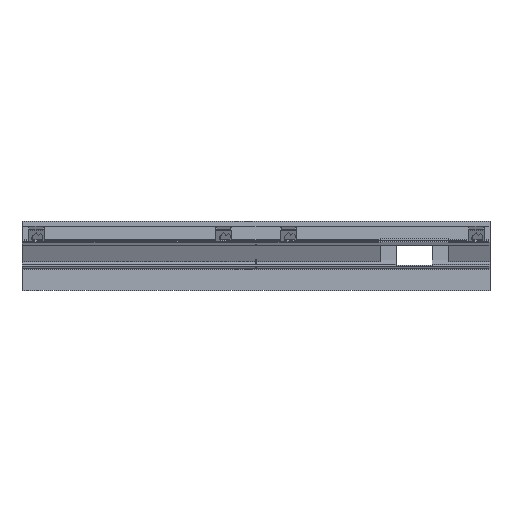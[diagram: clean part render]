
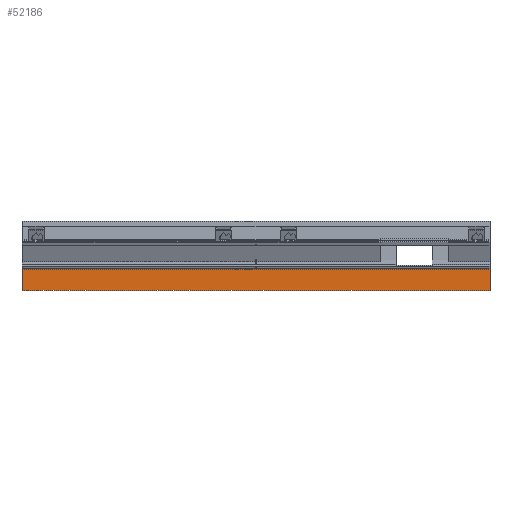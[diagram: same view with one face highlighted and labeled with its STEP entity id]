
A CAD part, front view. The second image highlights one B-rep face of the part: STEP entity #52186.
In plain terms, the highlighted planar face has unit normal (0, -1, 0).
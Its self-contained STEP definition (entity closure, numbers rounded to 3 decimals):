
#32 = PLANE('',#33);
#33 = AXIS2_PLACEMENT_3D('',#34,#35,#36);
#34 = CARTESIAN_POINT('',(-117.,101.,1.));
#35 = DIRECTION('',(1.,0.,-0.));
#36 = DIRECTION('',(0.,0.,1.));
#729 = VERTEX_POINT('',#730);
#730 = CARTESIAN_POINT('',(-117.,158.5,10.693));
#744 = PLANE('',#745);
#745 = AXIS2_PLACEMENT_3D('',#746,#747,#748);
#746 = CARTESIAN_POINT('',(-128.,147.295,-7.852));
#747 = DIRECTION('',(0.,-0.856,0.517));
#748 = DIRECTION('',(0.,0.517,0.856));
#756 = EDGE_CURVE('',#757,#729,#759,.T.);
#757 = VERTEX_POINT('',#758);
#758 = CARTESIAN_POINT('',(-117.,158.5,0.));
#759 = SURFACE_CURVE('',#760,(#764,#771),.PCURVE_S1.);
#760 = LINE('',#761,#762);
#761 = CARTESIAN_POINT('',(-117.,158.5,0.));
#762 = VECTOR('',#763,1.);
#763 = DIRECTION('',(0.,0.,1.));
#764 = PCURVE('',#32,#765);
#765 = DEFINITIONAL_REPRESENTATION('',(#766),#770);
#766 = LINE('',#767,#768);
#767 = CARTESIAN_POINT('',(-1.,-57.5));
#768 = VECTOR('',#769,1.);
#769 = DIRECTION('',(1.,0.));
#770 = ( GEOMETRIC_REPRESENTATION_CONTEXT(2) 
PARAMETRIC_REPRESENTATION_CONTEXT() REPRESENTATION_CONTEXT('2D SPACE',''
  ) );
#771 = PCURVE('',#772,#777);
#772 = PLANE('',#773);
#773 = AXIS2_PLACEMENT_3D('',#774,#775,#776);
#774 = CARTESIAN_POINT('',(168.,158.5,1.));
#775 = DIRECTION('',(0.,-1.,0.));
#776 = DIRECTION('',(-1.,0.,0.));
#777 = DEFINITIONAL_REPRESENTATION('',(#778),#782);
#778 = LINE('',#779,#780);
#779 = CARTESIAN_POINT('',(285.,1.));
#780 = VECTOR('',#781,1.);
#781 = DIRECTION('',(0.,-1.));
#782 = ( GEOMETRIC_REPRESENTATION_CONTEXT(2) 
PARAMETRIC_REPRESENTATION_CONTEXT() REPRESENTATION_CONTEXT('2D SPACE',''
  ) );
#800 = PLANE('',#801);
#801 = AXIS2_PLACEMENT_3D('',#802,#803,#804);
#802 = CARTESIAN_POINT('',(0.,0.,0.));
#803 = DIRECTION('',(0.,0.,1.));
#804 = DIRECTION('',(1.,0.,-0.));
#992 = PLANE('',#993);
#993 = AXIS2_PLACEMENT_3D('',#994,#995,#996);
#994 = CARTESIAN_POINT('',(117.,101.,1.));
#995 = DIRECTION('',(1.,0.,-0.));
#996 = DIRECTION('',(0.,0.,1.));
#1731 = VERTEX_POINT('',#1732);
#1732 = CARTESIAN_POINT('',(117.,158.5,10.693));
#1753 = EDGE_CURVE('',#1754,#1731,#1756,.T.);
#1754 = VERTEX_POINT('',#1755);
#1755 = CARTESIAN_POINT('',(117.,158.5,0.));
#1756 = SURFACE_CURVE('',#1757,(#1761,#1768),.PCURVE_S1.);
#1757 = LINE('',#1758,#1759);
#1758 = CARTESIAN_POINT('',(117.,158.5,0.));
#1759 = VECTOR('',#1760,1.);
#1760 = DIRECTION('',(0.,0.,1.));
#1761 = PCURVE('',#992,#1762);
#1762 = DEFINITIONAL_REPRESENTATION('',(#1763),#1767);
#1763 = LINE('',#1764,#1765);
#1764 = CARTESIAN_POINT('',(-1.,-57.5));
#1765 = VECTOR('',#1766,1.);
#1766 = DIRECTION('',(1.,0.));
#1767 = ( GEOMETRIC_REPRESENTATION_CONTEXT(2) 
PARAMETRIC_REPRESENTATION_CONTEXT() REPRESENTATION_CONTEXT('2D SPACE',''
  ) );
#1768 = PCURVE('',#772,#1769);
#1769 = DEFINITIONAL_REPRESENTATION('',(#1770),#1774);
#1770 = LINE('',#1771,#1772);
#1771 = CARTESIAN_POINT('',(51.,1.));
#1772 = VECTOR('',#1773,1.);
#1773 = DIRECTION('',(0.,-1.));
#1774 = ( GEOMETRIC_REPRESENTATION_CONTEXT(2) 
PARAMETRIC_REPRESENTATION_CONTEXT() REPRESENTATION_CONTEXT('2D SPACE',''
  ) );
#52162 = EDGE_CURVE('',#1754,#757,#52163,.T.);
#52163 = SURFACE_CURVE('',#52164,(#52168,#52174),.PCURVE_S1.);
#52164 = LINE('',#52165,#52166);
#52165 = CARTESIAN_POINT('',(84.,158.5,0.));
#52166 = VECTOR('',#52167,1.);
#52167 = DIRECTION('',(-1.,0.,0.));
#52168 = PCURVE('',#800,#52169);
#52169 = DEFINITIONAL_REPRESENTATION('',(#52170),#52173);
#52170 = B_SPLINE_CURVE_WITH_KNOTS('',1,(#52171,#52172),.UNSPECIFIED.,
  .F.,.F.,(2,2),(-33.,201.),.PIECEWISE_BEZIER_KNOTS.);
#52171 = CARTESIAN_POINT('',(117.,158.5));
#52172 = CARTESIAN_POINT('',(-117.,158.5));
#52173 = ( GEOMETRIC_REPRESENTATION_CONTEXT(2) 
PARAMETRIC_REPRESENTATION_CONTEXT() REPRESENTATION_CONTEXT('2D SPACE',''
  ) );
#52174 = PCURVE('',#772,#52175);
#52175 = DEFINITIONAL_REPRESENTATION('',(#52176),#52180);
#52176 = LINE('',#52177,#52178);
#52177 = CARTESIAN_POINT('',(84.,1.));
#52178 = VECTOR('',#52179,1.);
#52179 = DIRECTION('',(1.,0.));
#52180 = ( GEOMETRIC_REPRESENTATION_CONTEXT(2) 
PARAMETRIC_REPRESENTATION_CONTEXT() REPRESENTATION_CONTEXT('2D SPACE',''
  ) );
#52186 = ADVANCED_FACE('',(#52187),#772,.T.);
#52187 = FACE_BOUND('',#52188,.T.);
#52188 = EDGE_LOOP('',(#52189,#52210,#52211,#52212));
#52189 = ORIENTED_EDGE('',*,*,#52190,.T.);
#52190 = EDGE_CURVE('',#1731,#729,#52191,.T.);
#52191 = SURFACE_CURVE('',#52192,(#52196,#52203),.PCURVE_S1.);
#52192 = LINE('',#52193,#52194);
#52193 = CARTESIAN_POINT('',(20.,158.5,10.693));
#52194 = VECTOR('',#52195,1.);
#52195 = DIRECTION('',(-1.,0.,0.));
#52196 = PCURVE('',#772,#52197);
#52197 = DEFINITIONAL_REPRESENTATION('',(#52198),#52202);
#52198 = LINE('',#52199,#52200);
#52199 = CARTESIAN_POINT('',(148.,-9.693));
#52200 = VECTOR('',#52201,1.);
#52201 = DIRECTION('',(1.,0.));
#52202 = ( GEOMETRIC_REPRESENTATION_CONTEXT(2) 
PARAMETRIC_REPRESENTATION_CONTEXT() REPRESENTATION_CONTEXT('2D SPACE',''
  ) );
#52203 = PCURVE('',#744,#52204);
#52204 = DEFINITIONAL_REPRESENTATION('',(#52205),#52209);
#52205 = LINE('',#52206,#52207);
#52206 = CARTESIAN_POINT('',(21.667,-148.));
#52207 = VECTOR('',#52208,1.);
#52208 = DIRECTION('',(0.,1.));
#52209 = ( GEOMETRIC_REPRESENTATION_CONTEXT(2) 
PARAMETRIC_REPRESENTATION_CONTEXT() REPRESENTATION_CONTEXT('2D SPACE',''
  ) );
#52210 = ORIENTED_EDGE('',*,*,#756,.F.);
#52211 = ORIENTED_EDGE('',*,*,#52162,.F.);
#52212 = ORIENTED_EDGE('',*,*,#1753,.T.);
